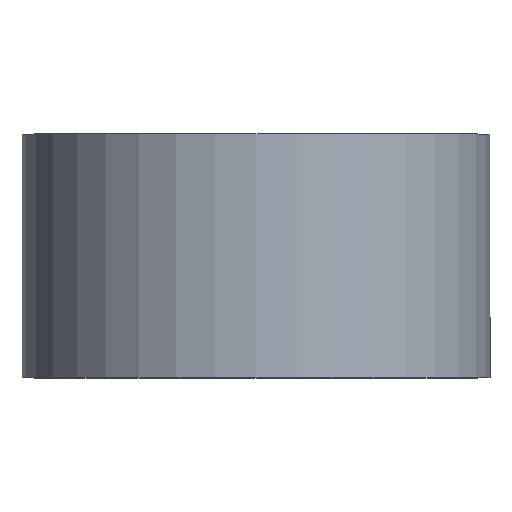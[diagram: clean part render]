
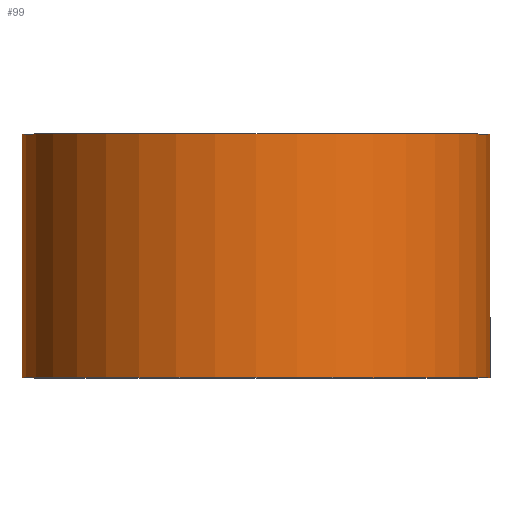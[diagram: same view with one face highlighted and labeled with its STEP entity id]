
A CAD part, top view. The second image highlights one B-rep face of the part: STEP entity #99.
In plain terms, the highlighted cylindrical face has radius 24 mm (diameter 48 mm), a partial arc.
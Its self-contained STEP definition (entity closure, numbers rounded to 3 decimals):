
#1 = LINE ( 'NONE', #240, #242 ) ;
#7 = AXIS2_PLACEMENT_3D ( 'NONE', #212, #67, #226 ) ;
#8 = DIRECTION ( 'NONE',  ( 0., 1., 0. ) ) ;
#14 = CARTESIAN_POINT ( 'NONE',  ( -24., 0., 0. ) ) ;
#15 = DIRECTION ( 'NONE',  ( 0., 1., 0. ) ) ;
#19 = DIRECTION ( 'NONE',  ( 0., 1., 0. ) ) ;
#28 = EDGE_CURVE ( 'NONE', #62, #200, #1, .T. ) ;
#29 = VECTOR ( 'NONE', #15, 1000. ) ;
#62 = VERTEX_POINT ( 'NONE', #150 ) ;
#64 = ORIENTED_EDGE ( 'NONE', *, *, #28, .T. ) ;
#67 = DIRECTION ( 'NONE',  ( 0., 1., 0. ) ) ;
#73 = CIRCLE ( 'NONE', #7, 24. ) ;
#75 = ORIENTED_EDGE ( 'NONE', *, *, #192, .F. ) ;
#85 = CARTESIAN_POINT ( 'NONE',  ( 0., 0., 0. ) ) ;
#91 = EDGE_CURVE ( 'NONE', #227, #62, #189, .T. ) ;
#95 = EDGE_CURVE ( 'NONE', #227, #111, #113, .T. ) ;
#99 = ADVANCED_FACE ( 'NONE', ( #216 ), #230, .T. ) ;
#107 = EDGE_LOOP ( 'NONE', ( #173, #64, #75, #187 ) ) ;
#111 = VERTEX_POINT ( 'NONE', #204 ) ;
#113 = LINE ( 'NONE', #14, #29 ) ;
#131 = DIRECTION ( 'NONE',  ( 0., 1., 0. ) ) ;
#150 = CARTESIAN_POINT ( 'NONE',  ( 24., 0., 0. ) ) ;
#153 = DIRECTION ( 'NONE',  ( -1., 0., 0. ) ) ;
#173 = ORIENTED_EDGE ( 'NONE', *, *, #91, .T. ) ;
#177 = AXIS2_PLACEMENT_3D ( 'NONE', #85, #131, #293 ) ;
#187 = ORIENTED_EDGE ( 'NONE', *, *, #95, .F. ) ;
#189 = CIRCLE ( 'NONE', #272, 24. ) ;
#192 = EDGE_CURVE ( 'NONE', #111, #200, #73, .T. ) ;
#200 = VERTEX_POINT ( 'NONE', #266 ) ;
#204 = CARTESIAN_POINT ( 'NONE',  ( -24., 25., 0. ) ) ;
#205 = CARTESIAN_POINT ( 'NONE',  ( -24., 0., 0. ) ) ;
#212 = CARTESIAN_POINT ( 'NONE',  ( 0., 25., 0. ) ) ;
#216 = FACE_OUTER_BOUND ( 'NONE', #107, .T. ) ;
#226 = DIRECTION ( 'NONE',  ( -1., 0., 0. ) ) ;
#227 = VERTEX_POINT ( 'NONE', #205 ) ;
#230 = CYLINDRICAL_SURFACE ( 'NONE', #177, 24. ) ;
#240 = CARTESIAN_POINT ( 'NONE',  ( 24., 0., 0. ) ) ;
#242 = VECTOR ( 'NONE', #8, 1000. ) ;
#266 = CARTESIAN_POINT ( 'NONE',  ( 24., 25., 0. ) ) ;
#272 = AXIS2_PLACEMENT_3D ( 'NONE', #292, #19, #153 ) ;
#292 = CARTESIAN_POINT ( 'NONE',  ( 0., 0., 0. ) ) ;
#293 = DIRECTION ( 'NONE',  ( -1., 0., 0. ) ) ;
